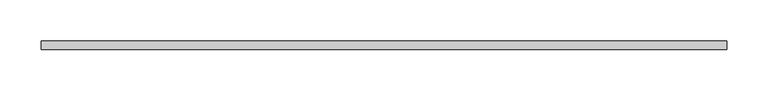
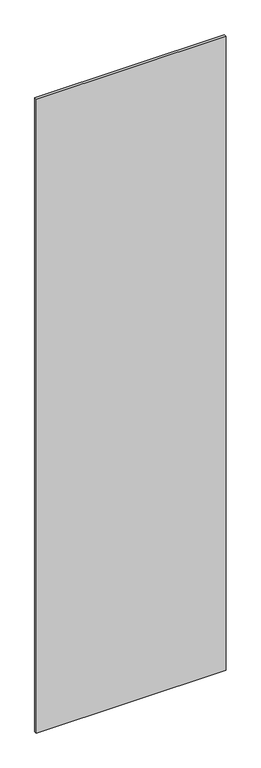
"""IFC4 building model written with IfcOpenShell, lengths in millimetres: plate geometry, システム パネル : 標準."""

from ifc_helpers import new_model, si_unit, origin, origin_with_axes, place, context, project, spatial, polyline, outline, extrude, source, transform, mapped, element, save


def plate_a71482e5(model_context):
    return source(origin(), model_context, "Body", "SweptSolid", [
        extrude(outline(polyline([(415.0, -5.0), (-415.0, -5.0), (-415.0, 5.0), (415.0, 5.0), (415.0, -5.0)])), origin_with_axes(), (0.0, 0.0, 1.0), 2930.0),
    ])


if __name__ == "__main__":
    model = new_model("IFC4")
    model_context = context("Model", 3, world=origin())
    ifc_project = project(units=[si_unit("LENGTHUNIT", "METRE", prefix="MILLI")], contexts=[model_context])
    site = spatial("IfcSite", under=ifc_project)
    building = spatial("IfcBuilding", under=site)
    placement = place(None, origin())
    plate_shape = plate_a71482e5(model_context)
    element("IfcPlate", 1, ObjectType="システム パネル : 標準", at=placement, inside=building, context=model_context, shape_type="MappedRepresentation", body=[
        mapped(plate_shape, transform((0.0, 0.0, 0.0), x_axis=(1.0, 0.0, 0.0), y_axis=(0.0, 1.0, 0.0), z_axis=(0.0, 0.0, 1.0))),
    ])
    save(model, "model.ifc")
